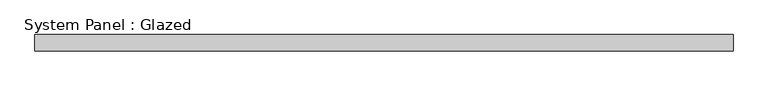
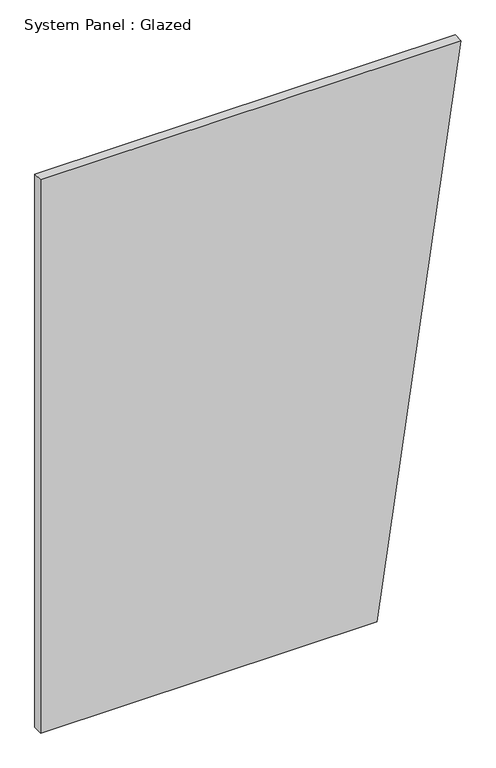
"""IFC4 building model written with IfcOpenShell, lengths in millimetres: plate geometry, System Panel : Glazed."""

from ifc_helpers import new_model, si_unit, frame, origin, place, context, project, spatial, polyline, outline, extrude, source, transform, mapped, element, save


def system_panel_glazed_b25ebf19(model_context):
    return source(origin(), model_context, "Body", "SweptSolid", [
        extrude(outline(polyline([(0.0, -548.2014388), (0.0, 328.9208633), (1524.0, 548.2014388), (1524.0, -548.2014388), (0.0, -548.2014388)])), frame((0.0, 19.05, 0.0), z_axis=(0.0, 1.0, 0.0), x_axis=(0.0, 0.0, 1.0)), (0.0, 0.0, 1.0), 25.4),
    ])


if __name__ == "__main__":
    model = new_model("IFC4")
    model_context = context("Model", 3, world=origin())
    ifc_project = project(units=[si_unit("LENGTHUNIT", "METRE", prefix="MILLI")], contexts=[model_context])
    site = spatial("IfcSite", under=ifc_project)
    building = spatial("IfcBuilding", under=site)
    placement = place(None, origin())
    system_panel_glazed_shape = system_panel_glazed_b25ebf19(model_context)
    element("IfcPlate", 1, ObjectType="System Panel : Glazed", at=placement, inside=building, context=model_context, shape_type="MappedRepresentation", body=[
        mapped(system_panel_glazed_shape, transform((0.0, 0.0, 0.0), x_axis=(1.0, 0.0, 0.0), y_axis=(0.0, 1.0, 0.0), z_axis=(0.0, 0.0, 1.0))),
    ])
    save(model, "model.ifc")
